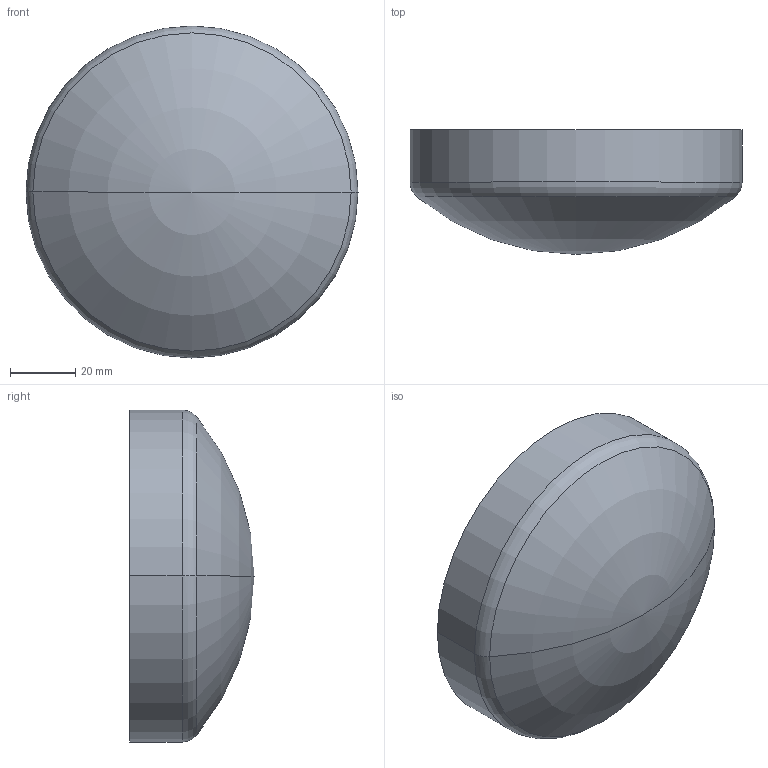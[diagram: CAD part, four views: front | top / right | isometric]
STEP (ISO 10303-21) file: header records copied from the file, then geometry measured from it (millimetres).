
FILE_DESCRIPTION (( 'STEP AP214' ), '1' );
FILE_NAME ('E16W 4.0 REV4.STEP', '2025-07-10T15:50:50', ( '' ), ( '' ), 'SwSTEP 2.0', 'SolidWorks 2022', '' );
FILE_SCHEMA (( 'AUTOMOTIVE_DESIGN' ));
Length unit declared in the file: inch
Products named in the file (1): E16W 4.0 REV4
Bounding box: 101.6 x 38.1 x 101.6 mm (x, y, z)
Volume: 30560.3 mm3; surface area: 29660.1 mm2
Topology: 1 solids, 1 shells, 13 faces, 28 edges, 14 vertices
Faces by surface type: torus 8, cylinder 4, plane 1
Entity records: 370 total; most frequent: DIRECTION 72, CARTESIAN_POINT 52, ORIENTED_EDGE 48, AXIS2_PLACEMENT_3D 34, EDGE_CURVE 24, CIRCLE 20, EDGE_LOOP 14, VERTEX_POINT 14
